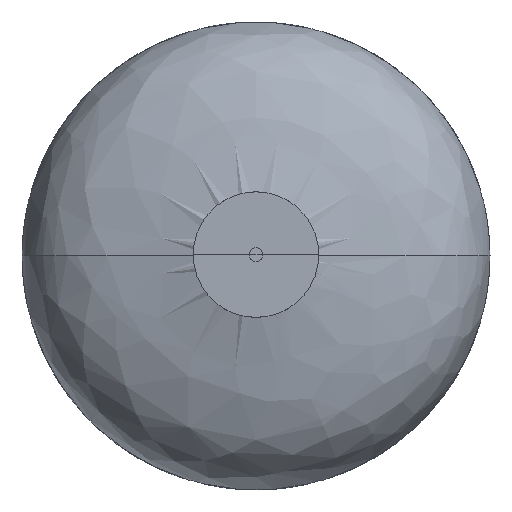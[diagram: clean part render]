
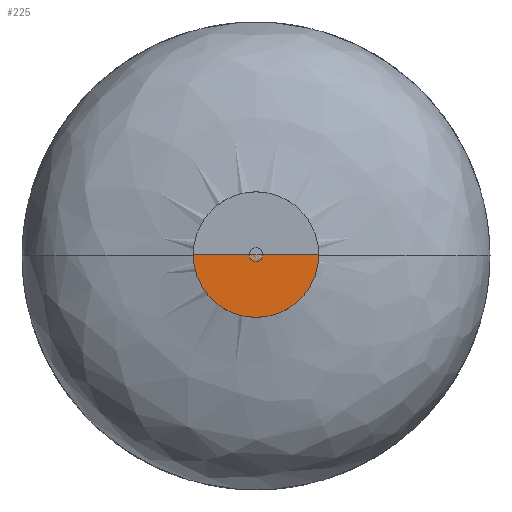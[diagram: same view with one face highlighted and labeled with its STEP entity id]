
A CAD part, top view. The second image highlights one B-rep face of the part: STEP entity #225.
In plain terms, the highlighted planar face has unit normal (0, 0, 1).
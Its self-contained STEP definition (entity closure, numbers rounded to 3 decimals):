
#81=B_SPLINE_CURVE_WITH_KNOTS('',1,(#3303,#3304),.UNSPECIFIED.,.F.,.F.,
(2,2),(0.,20.801),.UNSPECIFIED.);
#84=B_SPLINE_CURVE_WITH_KNOTS('',1,(#3321,#3322),.UNSPECIFIED.,.F.,.F.,
(2,2),(0.,20.801),.UNSPECIFIED.);
#135=PLANE('',#1417);
#225=ADVANCED_FACE('',(#304),#135,.T.);
#304=FACE_OUTER_BOUND('',#383,.T.);
#383=EDGE_LOOP('',(#681,#682,#683));
#681=ORIENTED_EDGE('',*,*,#869,.T.);
#682=ORIENTED_EDGE('',*,*,#875,.F.);
#683=ORIENTED_EDGE('',*,*,#876,.F.);
#869=EDGE_CURVE('',#1178,#1180,#81,.T.);
#875=EDGE_CURVE('',#1181,#1180,#958,.T.);
#876=EDGE_CURVE('',#1178,#1181,#84,.T.);
#958=TRIMMED_CURVE($,#1034,(#3319),(#3320),.T.,.CARTESIAN.);
#1034=CIRCLE('',#1421,42.791);
#1178=VERTEX_POINT('',#3298);
#1180=VERTEX_POINT('',#3300);
#1181=VERTEX_POINT('',#3301);
#1417=AXIS2_PLACEMENT_3D('',#3297,#1614,$);
#1421=AXIS2_PLACEMENT_3D($,#3318,#1621,#1622);
#1614=DIRECTION('',(0.,0.,1.));
#1621=DIRECTION('',(0.,0.,-1.));
#1622=DIRECTION('',(1.,0.,0.));
#3297=CARTESIAN_POINT('',(2366.671,1634.919,199.01));
#3298=CARTESIAN_POINT('',(2366.671,1634.919,199.01));
#3300=CARTESIAN_POINT('',(2323.881,1634.919,199.01));
#3301=CARTESIAN_POINT('',(2409.462,1634.919,199.01));
#3303=CARTESIAN_POINT('',(2366.671,1634.919,199.01));
#3304=CARTESIAN_POINT('',(2323.881,1634.919,199.01));
#3318=CARTESIAN_POINT('',(2366.671,1634.919,199.01));
#3319=CARTESIAN_POINT('',(2409.462,1634.919,199.01));
#3320=CARTESIAN_POINT('',(2323.881,1634.919,199.01));
#3321=CARTESIAN_POINT('',(2366.671,1634.919,199.01));
#3322=CARTESIAN_POINT('',(2409.462,1634.919,199.01));
